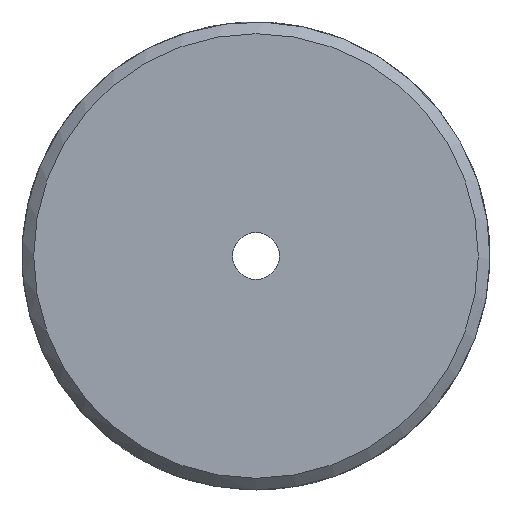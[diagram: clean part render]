
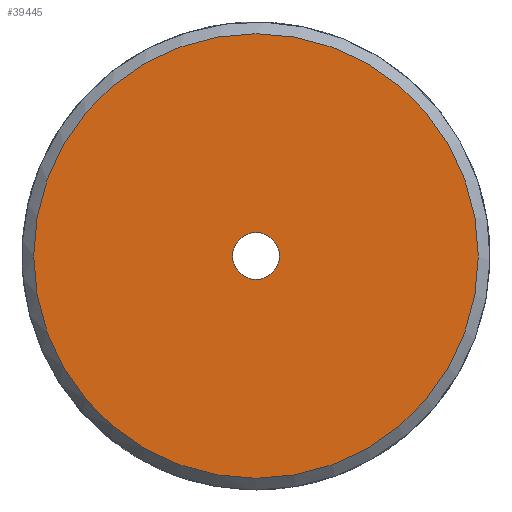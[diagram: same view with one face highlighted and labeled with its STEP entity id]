
A CAD part, left-side view. The second image highlights one B-rep face of the part: STEP entity #39445.
In plain terms, the highlighted planar face has unit normal (-1, 0, 0).
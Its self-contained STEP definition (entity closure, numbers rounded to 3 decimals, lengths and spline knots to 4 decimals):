
#11326=PLANE('',#38654);
#12242=ORIENTED_EDGE('',*,*,#15568,.F.);
#12243=ORIENTED_EDGE('',*,*,#15569,.F.);
#14454=CIRCLE('',#38653,9.5);
#14455=CIRCLE('',#38655,1.);
#14817=VERTEX_POINT('',#19217);
#14818=VERTEX_POINT('',#19220);
#15568=EDGE_CURVE('',#14817,#14817,#14454,.T.);
#15569=EDGE_CURVE('',#14818,#14818,#14455,.T.);
#16663=EDGE_LOOP('',(#12242));
#16664=EDGE_LOOP('',(#12243));
#17038=FACE_BOUND('',#16663,.T.);
#17039=FACE_BOUND('',#16664,.T.);
#17427=DIRECTION('',(1.,0.,0.));
#17428=DIRECTION('',(0.,0.,-9.5));
#17429=DIRECTION('',(-1.,0.,0.));
#17430=DIRECTION('',(0.,1.,0.));
#17431=DIRECTION('',(-1.,0.,0.));
#17432=DIRECTION('',(0.,0.,-1.));
#19217=CARTESIAN_POINT('',(0.,0.,-9.5));
#19218=CARTESIAN_POINT('',(0.,0.,0.));
#19219=CARTESIAN_POINT('',(0.,0.,0.));
#19220=CARTESIAN_POINT('',(0.,0.,-1.));
#19221=CARTESIAN_POINT('',(0.,0.,0.));
#38653=AXIS2_PLACEMENT_3D('',#19218,#17427,#17428);
#38654=AXIS2_PLACEMENT_3D('',#19219,#17429,#17430);
#38655=AXIS2_PLACEMENT_3D('',#19221,#17431,#17432);
#39445=ADVANCED_FACE('',(#17038,#17039),#11326,.T.);
